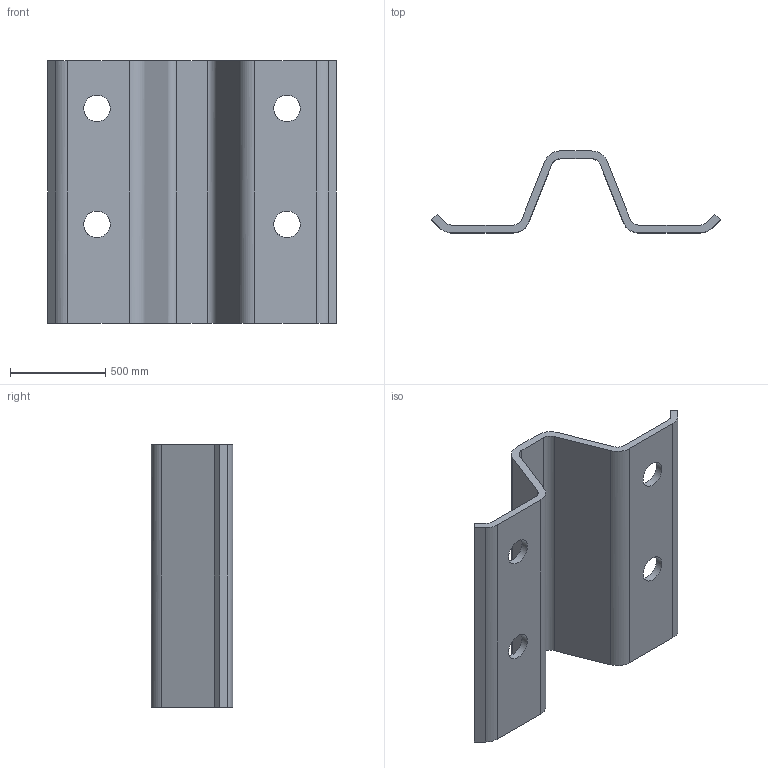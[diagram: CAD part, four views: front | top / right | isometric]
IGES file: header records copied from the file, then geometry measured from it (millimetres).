
Global section: file name: ZC155; native system: Autodesk RealDWG; preprocessor: Autodesk Translation Framework DWG producer (atf_dwg_producer); organization: unknown; date: 20241104.112324; units: centimetre
Bounding box: 1517.2 x 430 x 1380 mm (x, y, z)
Volume: 108943352.8 mm3; surface area: 5789454.2 mm2
Topology: 1 solids, 1 shells, 34 faces, 104 edges, 72 vertices
Faces by surface type: bspline 34
